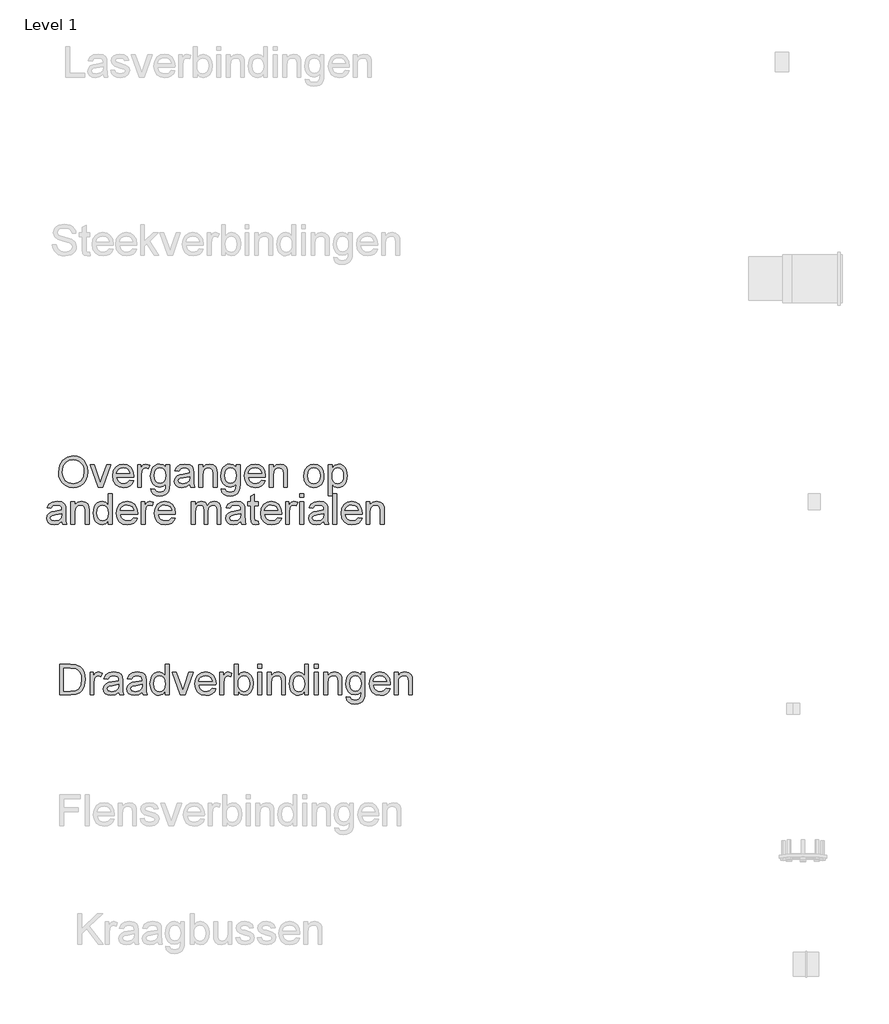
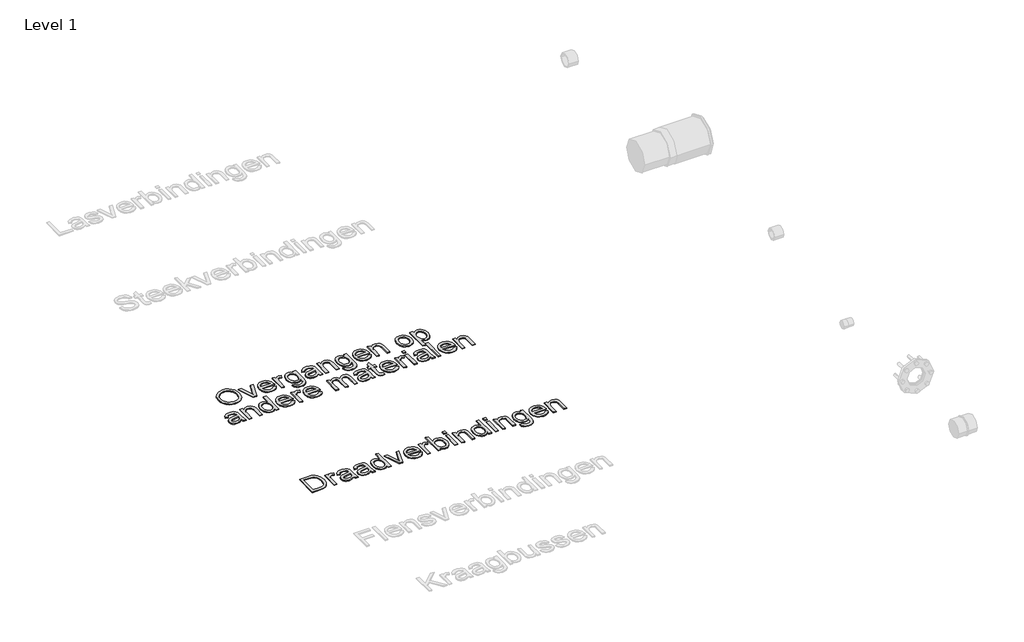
# One storey, part 5 of 9: 2 proxies.
"""IFC4 building model written with IfcOpenShell, lengths in millimetres."""

from ifc_helpers import new_model, si_unit, origin, origin_with_axes, place, context, project, spatial, polyline, outline, extrude, element, save

model = new_model("IFC4")

# Units and contexts
model_context = context("Model", 3, world=origin())
ifc_project = project(units=[si_unit("LENGTHUNIT", "METRE", prefix="MILLI")], contexts=[model_context])

# Site, building, storey
site = spatial("IfcSite", under=ifc_project)
building = spatial("IfcBuilding", under=site)
storey = spatial("IfcBuildingStorey", under=building, Name="Level 1", Elevation=0.0)

# Proxies
placement = place(None, origin())
element("IfcBuildingElementProxy", 1, Name="small", ObjectType="small", at=placement, inside=storey, context=model_context, shape_type="SweptSolid", body=[
    extrude(outline(polyline([(1671.5177928, 13973.1453633), (1676.2046095, 14004.2448809), (1690.2650593, 14027.773387), (1711.7334263, 14042.5806373), (1738.6439942, 14047.5163874), (1757.0908237, 14045.1987308), (1773.6320245, 14038.2457611), (1787.3662857, 14027.1467613), (1797.3922963, 14012.3910145), (1803.5212104, 13994.6909854), (1805.5641817, 13974.7591389), (1803.4139114, 13954.5611911), (1796.9631007, 13936.6122286), (1786.5679817, 13921.83073), (1772.5847871, 13911.1351742), (1756.1852209, 13904.6457358), (1738.5409873, 13902.4825896), (1719.8108886, 13904.8732095), (1703.1752648, 13912.045069), (1689.4753393, 13923.3500827), (1679.5523356, 13938.1401651), (1673.5264285, 13955.1577731), (1671.5177928, 13973.1453633)]), holes=[polyline([(1689.0976471, 13972.973685), (1692.6127596, 13950.9731154), (1703.158097, 13934.2087329), (1719.0082927, 13923.5990162), (1738.4379803, 13920.0624439), (1758.150937, 13923.6333518), (1774.0268845, 13934.3460755), (1784.4949667, 13951.6254928), (1787.9843274, 13974.8964816), (1786.4907265, 13990.4591162), (1782.0099238, 14003.9101082), (1774.6578021, 14014.910393), (1764.5502443, 14023.120906), (1752.3567956, 14028.2326264), (1738.7470012, 14029.9365331), (1719.8366404, 14026.6531863), (1703.7589709, 14016.8031459), (1692.7629781, 13999.2790871), (1689.0976471, 13972.973685)])]), origin_with_axes(), (0.0, 0.0, 1.0), 5.0),
    extrude(outline(polyline([(1852.8787114, 13904.6800714), (1816.5515906, 14007.9617153), (1835.1615145, 14007.9617153), (1857.170668, 13946.0888688), (1863.797449, 13925.2814631), (1870.2868874, 13944.9214566), (1892.4333835, 14007.9617153), (1911.0433074, 14007.9617153), (1875.1625501, 13904.6800714), (1852.8787114, 13904.6800714)])), origin_with_axes(), (0.0, 0.0, 1.0), 5.0),
    extrude(outline(polyline([(1998.7365648, 13935.4448164), (2015.9730626, 13933.2473346), (2009.7626014, 13920.2598739), (1999.8524735, 13910.5514681), (1986.4658609, 13904.4998092), (1969.8259451, 13902.4825896), (1949.1988016, 13905.9633664), (1933.3271461, 13916.4056969), (1923.2067124, 13933.1314518), (1919.8332345, 13955.462502), (1923.241048, 13978.5446447), (1933.4644887, 13995.8068942), (1949.1215464, 14006.5711213), (1968.8302112, 14010.1591971), (1987.9251261, 14006.5797053), (2003.1830319, 13995.8412298), (2013.1875827, 13978.613316), (2016.522433, 13955.565509), (2016.4194261, 13950.8271889), (1937.4130888, 13950.8271889), (1940.456086, 13937.6680499), (1947.5249385, 13927.9939797), (1957.7269194, 13922.0453279), (1970.1693016, 13920.0624439), (1987.4057994, 13923.7363588), (1998.7365648, 13935.4448164)]), holes=[polyline([(1937.4130888, 13968.4070432), (1998.9425787, 13968.4070432), (1991.9037699, 13984.3387861), (1981.6545775, 13990.5192036), (1968.7615399, 13992.5793428), (1956.9114477, 13990.9355234), (1947.1129107, 13986.0040653), (1940.3015756, 13978.317171), (1937.4130888, 13968.4070432)])]), origin_with_axes(), (0.0, 0.0, 1.0), 5.0),
    extrude(outline(polyline([(2034.1022873, 13904.6800714), (2034.1022873, 14007.9617153), (2049.4846598, 14007.9617153), (2049.4846598, 13992.6823498), (2060.4033974, 14006.7599674), (2071.3908063, 14010.1591971), (2089.0393319, 14004.7341639), (2083.1679353, 13988.9740992), (2070.8071002, 13992.5793428), (2060.8669287, 13989.1114419), (2054.5320008, 13979.497459), (2051.6821416, 13958.9647386), (2051.6821416, 13904.6800714), (2034.1022873, 13904.6800714)])), origin_with_axes(), (0.0, 0.0, 1.0), 5.0),
    extrude(outline(polyline([(2095.6317773, 13895.8901443), (2113.2116315, 13893.6926625), (2118.9113499, 13884.4220362), (2135.9761694, 13880.5077718), (2153.9680515, 13884.937071), (2162.5519647, 13897.3665773), (2163.7537126, 13917.8649621), (2151.3757097, 13907.9762941), (2136.2851903, 13904.6800714), (2118.1602575, 13908.5170806), (2104.6448861, 13920.0281083), (2096.2369431, 13936.9040816), (2093.4342955, 13956.8359281), (2098.4644686, 13984.0812687), (2104.6191344, 13995.1416409), (2113.0227854, 14003.3607378), (2123.3878607, 14008.4595823), (2135.4267989, 14010.1591971), (2151.1096084, 14006.3136039), (2163.7537126, 13994.7768246), (2163.7537126, 14007.9617153), (2181.3335669, 14007.9617153), (2181.3335669, 13918.7920247), (2180.131819, 13898.2035089), (2176.5265755, 13884.645218), (2170.3161142, 13875.6535689), (2161.2987134, 13868.7649785), (2149.6718029, 13864.3871828), (2135.6328129, 13862.9279175), (2119.2761662, 13864.9837647), (2106.3960044, 13871.1513064), (2098.133988, 13881.4477103), (2095.6317773, 13895.8901443)]), holes=[polyline([(2111.0141497, 13958.037676), (2112.8897348, 13941.912795), (2118.5164899, 13930.8266711), (2126.9759364, 13924.401612), (2137.3495955, 13922.2599257), (2147.6459994, 13924.3887362), (2156.1483655, 13930.7751676), (2161.8523758, 13941.719657), (2163.7537126, 13957.5226412), (2161.7965804, 13972.7633791), (2155.9251837, 13983.7379122), (2147.2983509, 13990.3689851), (2137.0749103, 13992.5793428), (2127.0360238, 13990.4033208), (2118.6194969, 13983.8752548), (2112.9154865, 13973.0638161), (2111.0141497, 13958.037676)])]), origin_with_axes(), (0.0, 0.0, 1.0), 5.0),
    extrude(outline(polyline([(2273.6278018, 13917.8649621), (2256.5801501, 13905.9504906), (2237.7470445, 13902.4825896), (2223.0556771, 13904.5684805), (2212.2184866, 13910.8261533), (2205.5359102, 13920.3285452), (2203.3083847, 13932.1485937), (2206.6732787, 13946.0545331), (2215.5147093, 13956.1492151), (2227.8240409, 13961.9176048), (2243.0347351, 13964.56145), (2273.5247948, 13970.6045249), (2273.6278018, 13974.5187894), (2272.41747, 13982.3644861), (2268.7864747, 13987.4976662), (2260.6660928, 13991.3089236), (2249.3524952, 13992.5793428), (2231.566627, 13989.197281), (2223.0857208, 13977.1969703), (2205.5058665, 13979.3944521), (2213.1112136, 13996.5622785), (2228.4249148, 14006.6226248), (2251.6186483, 14010.1591971), (2272.9239209, 14007.0346527), (2284.9585673, 13999.188956), (2290.3492648, 13987.2573166), (2291.2076561, 13971.8749441), (2291.2076561, 13950.0031332), (2292.1003831, 13919.46157), (2295.6026196, 13904.6800714), (2278.0227654, 13904.6800714), (2273.6278018, 13917.8649621)]), holes=[polyline([(2273.6278018, 13953.0246707), (2245.2665525, 13947.6339732), (2230.1416974, 13944.784114), (2223.2917347, 13940.1488008), (2220.888239, 13933.3846772), (2226.124426, 13923.8737014), (2241.4896307, 13920.0624439), (2259.2754989, 13924.2685614), (2270.743607, 13934.4490825), (2273.5247948, 13948.046001), (2273.6278018, 13953.0246707)])]), origin_with_axes(), (0.0, 0.0, 1.0), 5.0),
    extrude(outline(polyline([(2315.3799557, 13904.6800714), (2315.3799557, 14007.9617153), (2332.95981, 14007.9617153), (2332.95981, 13993.5407411), (2346.4022181, 14006.0045831), (2364.7546246, 14010.1591971), (2381.3559127, 14006.8114709), (2392.6866782, 13998.0215438), (2397.9572009, 13985.0941705), (2398.8842635, 13968.0980223), (2398.8842635, 13904.6800714), (2381.3044092, 13904.6800714), (2381.3044092, 13965.7288622), (2379.2786057, 13981.282913), (2372.1196221, 13989.5063019), (2360.0506401, 13992.5793428), (2349.7542362, 13990.8539762), (2340.9771849, 13985.6778766), (2334.9641537, 13975.6776177), (2332.95981, 13959.4797734), (2332.95981, 13904.6800714), (2315.3799557, 13904.6800714)])), origin_with_axes(), (0.0, 0.0, 1.0), 5.0),
    extrude(outline(polyline([(2418.6615996, 13895.8901443), (2436.2414539, 13893.6926625), (2441.9411722, 13884.4220362), (2459.0059917, 13880.5077718), (2476.9978738, 13884.937071), (2485.5817871, 13897.3665773), (2486.7835349, 13917.8649621), (2474.405532, 13907.9762941), (2459.3150126, 13904.6800714), (2441.1900798, 13908.5170806), (2427.6747085, 13920.0281083), (2419.2667655, 13936.9040816), (2416.4641178, 13956.8359281), (2421.4942909, 13984.0812687), (2427.6489567, 13995.1416409), (2436.0526078, 14003.3607378), (2446.417683, 14008.4595823), (2458.4566213, 14010.1591971), (2474.1394307, 14006.3136039), (2486.7835349, 13994.7768246), (2486.7835349, 14007.9617153), (2504.3633892, 14007.9617153), (2504.3633892, 13918.7920247), (2503.1616413, 13898.2035089), (2499.5563978, 13884.645218), (2493.3459366, 13875.6535689), (2484.3285357, 13868.7649785), (2472.7016253, 13864.3871828), (2458.6626352, 13862.9279175), (2442.3059885, 13864.9837647), (2429.4258268, 13871.1513064), (2421.1638103, 13881.4477103), (2418.6615996, 13895.8901443)]), holes=[polyline([(2434.0439721, 13958.037676), (2435.9195571, 13941.912795), (2441.5463122, 13930.8266711), (2450.0057587, 13924.401612), (2460.3794178, 13922.2599257), (2470.6758217, 13924.3887362), (2479.1781878, 13930.7751676), (2484.8821981, 13941.719657), (2486.7835349, 13957.5226412), (2484.8264027, 13972.7633791), (2478.955006, 13983.7379122), (2470.3281733, 13990.3689851), (2460.1047326, 13992.5793428), (2450.0658461, 13990.4033208), (2441.6493192, 13983.8752548), (2435.9453089, 13973.0638161), (2434.0439721, 13958.037676)])]), origin_with_axes(), (0.0, 0.0, 1.0), 5.0),
    extrude(outline(polyline([(2603.0440556, 13935.4448164), (2620.2805533, 13933.2473346), (2614.0700921, 13920.2598739), (2604.1599643, 13910.5514681), (2590.7733516, 13904.4998092), (2574.1334358, 13902.4825896), (2553.5062924, 13905.9633664), (2537.6346368, 13916.4056969), (2527.5142031, 13933.1314518), (2524.1407252, 13955.462502), (2527.5485388, 13978.5446447), (2537.7719794, 13995.8068942), (2553.4290371, 14006.5711213), (2573.1377019, 14010.1591971), (2592.2326169, 14006.5797053), (2607.4905226, 13995.8412298), (2617.4950735, 13978.613316), (2620.8299238, 13955.565509), (2620.7269168, 13950.8271889), (2541.7205795, 13950.8271889), (2544.7635768, 13937.6680499), (2551.8324293, 13927.9939797), (2562.0344102, 13922.0453279), (2574.4767924, 13920.0624439), (2591.7132901, 13923.7363588), (2603.0440556, 13935.4448164)]), holes=[polyline([(2541.7205795, 13968.4070432), (2603.2500695, 13968.4070432), (2596.2112606, 13984.3387861), (2585.9620683, 13990.5192036), (2573.0690306, 13992.5793428), (2561.2189384, 13990.9355234), (2551.4204015, 13986.0040653), (2544.6090663, 13978.317171), (2541.7205795, 13968.4070432)])]), origin_with_axes(), (0.0, 0.0, 1.0), 5.0),
    extrude(outline(polyline([(2638.409778, 13904.6800714), (2638.409778, 14007.9617153), (2655.9896323, 14007.9617153), (2655.9896323, 13993.5407411), (2669.4320404, 14006.0045831), (2687.7844469, 14010.1591971), (2704.3857351, 14006.8114709), (2715.7165005, 13998.0215438), (2720.9870232, 13985.0941705), (2721.9140858, 13968.0980223), (2721.9140858, 13904.6800714), (2704.3342316, 13904.6800714), (2704.3342316, 13965.7288622), (2702.3084281, 13981.282913), (2695.1494444, 13989.5063019), (2683.0804624, 13992.5793428), (2672.7840585, 13990.8539762), (2664.0070073, 13985.6778766), (2657.993976, 13975.6776177), (2655.9896323, 13959.4797734), (2655.9896323, 13904.6800714), (2638.409778, 13904.6800714)])), origin_with_axes(), (0.0, 0.0, 1.0), 5.0),
    extrude(outline(polyline([(2796.6284665, 13956.3208933), (2800.4311401, 13981.2228256), (2811.8391607, 13998.7254247), (2825.9339463, 14007.300754), (2842.8099196, 14010.1591971), (2861.2782089, 14006.6784203), (2876.0296638, 13996.2360898), (2885.6994421, 13979.6562614), (2888.9227015, 13957.7629908), (2887.4977719, 13940.0028743), (2883.2229831, 13926.483211), (2876.2228019, 13916.3584853), (2866.6216949, 13908.7831819), (2855.2179662, 13904.0577377), (2842.8099196, 13902.4825896), (2824.1184486, 13905.9504906), (2809.3841616, 13916.3541934), (2799.8173903, 13933.2816703), (2796.6284665, 13956.3208933)]), holes=[polyline([(2814.2083208, 13956.355229), (2816.2427082, 13940.4449458), (2822.3458705, 13929.1098884), (2831.5306577, 13922.324305), (2842.8099196, 13920.0624439), (2854.0376781, 13922.3371809), (2863.2052975, 13929.1613919), (2869.3084598, 13940.6466678), (2871.3428472, 13956.9045994), (2869.2955839, 13972.3513513), (2863.153794, 13983.5318983), (2853.9732988, 13990.3174817), (2842.8099196, 13992.5793428), (2831.5306577, 13990.3260656), (2822.3458705, 13983.5662339), (2816.2427082, 13972.2569282), (2814.2083208, 13956.355229)])]), origin_with_axes(), (0.0, 0.0, 1.0), 5.0),
    extrude(outline(polyline([(2908.7000375, 13865.1253993), (2908.7000375, 14007.9617153), (2926.2798918, 14007.9617153), (2926.2798918, 13990.7252175), (2938.4347129, 14005.3007022), (2954.847155, 14010.1591971), (2966.7358748, 14008.4595823), (2977.1309937, 14003.3607378), (2985.5947322, 13995.1716846), (2991.6893105, 13984.2014435), (2996.5993089, 13957.1106134), (2991.054101, 13928.6291893), (2984.2556417, 13917.4529343), (2974.9506798, 13909.2295454), (2964.1134893, 13904.1693286), (2952.7183445, 13902.4825896), (2937.4218112, 13906.997728), (2926.2798918, 13918.4143326), (2926.2798918, 13865.1253993), (2908.7000375, 13865.1253993)]), holes=[polyline([(2926.2798918, 13955.4968377), (2928.1812286, 13939.736773), (2933.8852389, 13928.7150284), (2942.3017658, 13922.22559), (2952.3406523, 13920.0624439), (2962.5426332, 13922.3028453), (2971.173758, 13929.0240493), (2977.0580305, 13940.4492378), (2979.0194546, 13956.8015925), (2977.105242, 13972.475818), (2971.362604, 13983.652073), (2962.958953, 13990.3475254), (2953.0617011, 13992.5793428), (2943.1258215, 13990.2058908), (2934.4002737, 13983.0855348), (2928.3099873, 13971.4414565), (2926.2798918, 13955.4968377)])]), origin_with_axes(), (0.0, 0.0, 1.0), 5.0),
    extrude(outline(polyline([(1686.9001653, 13747.1002171), (1669.8525137, 13735.1857456), (1651.0194081, 13731.7178446), (1636.3280406, 13733.8037356), (1625.4908502, 13740.0614083), (1618.8082737, 13749.5638002), (1616.5807482, 13761.3838487), (1619.9456422, 13775.2897882), (1628.7870728, 13785.3844701), (1641.0964044, 13791.1528598), (1656.3070986, 13793.7967051), (1686.7971584, 13799.83978), (1686.9001653, 13803.7540444), (1685.6898336, 13811.5997411), (1682.0588383, 13816.7329212), (1673.9384564, 13820.5441787), (1662.6248587, 13821.8145978), (1644.8389906, 13818.432536), (1636.3580843, 13806.4322253), (1618.77823, 13808.6297071), (1626.3835771, 13825.7975335), (1641.6972783, 13835.8578798), (1664.8910118, 13839.3944521), (1686.1962845, 13836.2699077), (1698.2309308, 13828.424211), (1703.6216283, 13816.4925716), (1704.4800196, 13801.1101991), (1704.4800196, 13779.2383882), (1705.3727466, 13748.696825), (1708.8749832, 13733.9153264), (1691.2951289, 13733.9153264), (1686.9001653, 13747.1002171)]), holes=[polyline([(1686.9001653, 13782.2599257), (1658.5389161, 13776.8692282), (1643.414061, 13774.019369), (1636.5640982, 13769.3840559), (1634.1606025, 13762.6199322), (1639.3967896, 13753.1089564), (1654.7619942, 13749.2976989), (1672.5478624, 13753.5038164), (1684.0159705, 13763.6843375), (1686.7971584, 13777.281256), (1686.9001653, 13782.2599257)])]), origin_with_axes(), (0.0, 0.0, 1.0), 5.0),
    extrude(outline(polyline([(1728.6523192, 13733.9153264), (1728.6523192, 13837.1969703), (1746.2321735, 13837.1969703), (1746.2321735, 13822.7759961), (1759.6745816, 13835.2398381), (1778.0269881, 13839.3944521), (1794.6282763, 13836.0467259), (1805.9590417, 13827.2567988), (1811.2295644, 13814.3294255), (1812.1566271, 13797.3332773), (1812.1566271, 13733.9153264), (1794.5767728, 13733.9153264), (1794.5767728, 13794.9641173), (1792.5509693, 13810.518168), (1785.3919856, 13818.7415569), (1773.3230036, 13821.8145978), (1763.0265997, 13820.0892313), (1754.2495485, 13814.9131316), (1748.2365173, 13804.9128727), (1746.2321735, 13788.7150284), (1746.2321735, 13733.9153264), (1728.6523192, 13733.9153264)])), origin_with_axes(), (0.0, 0.0, 1.0), 5.0),
    extrude(outline(polyline([(1900.0558984, 13733.9153264), (1900.0558984, 13750.4994468), (1888.424696, 13736.4132452), (1872.3470266, 13731.7178446), (1860.9819255, 13733.4174595), (1850.5782226, 13738.5163039), (1841.7711277, 13746.6581456), (1835.1958501, 13757.4867521), (1829.7364813, 13785.4531414), (1834.7666545, 13813.4366985), (1841.050079, 13824.5356983), (1849.8400061, 13832.6989998), (1860.4711826, 13837.720589), (1872.2783553, 13839.3944521), (1888.4847834, 13834.6046285), (1900.0558984, 13822.1579543), (1900.0558984, 13874.5541606), (1917.6357527, 13874.5541606), (1917.6357527, 13733.9153264), (1900.0558984, 13733.9153264)]), holes=[polyline([(1847.3163356, 13785.5218127), (1849.2992196, 13769.6201135), (1855.2478714, 13758.3108078), (1863.891872, 13751.5509761), (1873.9608022, 13749.2976989), (1884.0254405, 13751.4479692), (1892.4505513, 13757.89878), (1898.1545617, 13768.7703061), (1900.0558984, 13784.1827223), (1898.120226, 13801.0329439), (1892.3132087, 13812.7156498), (1883.6735001, 13819.5398608), (1873.2397535, 13821.8145978), (1863.0678164, 13819.6299919), (1854.7328366, 13813.0761742), (1849.1704609, 13801.818372), (1847.3163356, 13785.5218127)])]), origin_with_axes(), (0.0, 0.0, 1.0), 5.0),
    extrude(outline(polyline([(2016.3164191, 13764.6800714), (2033.5529168, 13762.4825896), (2027.3424556, 13749.4951289), (2017.4323278, 13739.7867231), (2004.0457151, 13733.7350643), (1987.4057994, 13731.7178446), (1966.7786559, 13735.1986215), (1950.9070004, 13745.6409519), (1940.7865667, 13762.3667068), (1937.4130888, 13784.697757), (1940.8209023, 13807.7798997), (1951.044343, 13825.0421492), (1966.7014007, 13835.8063764), (1986.4100654, 13839.3944521), (2005.5049804, 13835.8149603), (2020.7628861, 13825.0764848), (2030.767437, 13807.848571), (2034.1022873, 13784.800764), (2033.9992803, 13780.0624439), (1954.992943, 13780.0624439), (1958.0359403, 13766.9033049), (1965.1047928, 13757.2292347), (1975.3067737, 13751.2805829), (1987.7491559, 13749.2976989), (2004.9856536, 13752.9716138), (2016.3164191, 13764.6800714)]), holes=[polyline([(1954.992943, 13797.6422982), (2016.522433, 13797.6422982), (2009.4836242, 13813.5740411), (1999.2344318, 13819.7544586), (1986.3413941, 13821.8145978), (1974.4913019, 13820.1707784), (1964.692765, 13815.2393203), (1957.8814298, 13807.552426), (1954.992943, 13797.6422982)])]), origin_with_axes(), (0.0, 0.0, 1.0), 5.0),
    extrude(outline(polyline([(2051.6821416, 13733.9153264), (2051.6821416, 13837.1969703), (2067.0645141, 13837.1969703), (2067.0645141, 13821.9176048), (2077.9832517, 13835.9952225), (2088.9706606, 13839.3944521), (2106.6191862, 13833.9694189), (2100.7477895, 13818.2093543), (2088.3869545, 13821.8145978), (2078.446783, 13818.3466969), (2072.111855, 13808.7327141), (2069.2619958, 13788.1999936), (2069.2619958, 13733.9153264), (2051.6821416, 13733.9153264)])), origin_with_axes(), (0.0, 0.0, 1.0), 5.0),
    extrude(outline(polyline([(2189.9174801, 13764.6800714), (2207.1539778, 13762.4825896), (2200.9435166, 13749.4951289), (2191.0333888, 13739.7867231), (2177.6467761, 13733.7350643), (2161.0068603, 13731.7178446), (2140.3797169, 13735.1986215), (2124.5080613, 13745.6409519), (2114.3876276, 13762.3667068), (2111.0141497, 13784.697757), (2114.4219633, 13807.7798997), (2124.6454039, 13825.0421492), (2140.3024617, 13835.8063764), (2160.0111264, 13839.3944521), (2179.1060414, 13835.8149603), (2194.3639471, 13825.0764848), (2204.368498, 13807.848571), (2207.7033483, 13784.800764), (2207.6003413, 13780.0624439), (2128.594004, 13780.0624439), (2131.6370013, 13766.9033049), (2138.7058538, 13757.2292347), (2148.9078347, 13751.2805829), (2161.3502169, 13749.2976989), (2178.5867146, 13752.9716138), (2189.9174801, 13764.6800714)]), holes=[polyline([(2128.594004, 13797.6422982), (2190.123494, 13797.6422982), (2183.0846852, 13813.5740411), (2172.8354928, 13819.7544586), (2159.9424551, 13821.8145978), (2148.0923629, 13820.1707784), (2138.293826, 13815.2393203), (2131.4824908, 13807.552426), (2128.594004, 13797.6422982)])]), origin_with_axes(), (0.0, 0.0, 1.0), 5.0),
    extrude(outline(polyline([(2280.2202472, 13733.9153264), (2280.2202472, 13837.1969703), (2297.8001014, 13837.1969703), (2297.8001014, 13820.2008221), (2309.8862512, 13834.1239294), (2327.0884133, 13839.3944521), (2344.7026033, 13834.0209224), (2354.3852574, 13818.9647386), (2368.1023507, 13834.2870237), (2385.4246876, 13839.3944521), (2398.639622, 13837.2699336), (2408.4124072, 13830.896378), (2414.4511901, 13820.1021071), (2416.4641178, 13804.7154427), (2416.4641178, 13733.9153264), (2398.8842635, 13733.9153264), (2398.8842635, 13797.161599), (2397.25332, 13811.8400906), (2391.3475877, 13819.0677456), (2381.3044092, 13821.8145978), (2371.7805575, 13820.0548956), (2364.016408, 13814.775789), (2358.8531842, 13805.6167536), (2357.1321096, 13792.217265), (2357.1321096, 13733.9153264), (2339.5522553, 13733.9153264), (2339.5522553, 13799.1187313), (2335.4834805, 13816.1492151), (2330.1142428, 13820.3982521), (2322.1440793, 13821.8145978), (2309.1308669, 13818.037676), (2300.4782824, 13806.9815958), (2297.8001014, 13786.0025119), (2297.8001014, 13733.9153264), (2280.2202472, 13733.9153264)])), origin_with_axes(), (0.0, 0.0, 1.0), 5.0),
    extrude(outline(polyline([(2508.7583527, 13747.1002171), (2491.7107011, 13735.1857456), (2472.8775955, 13731.7178446), (2458.186228, 13733.8037356), (2447.3490376, 13740.0614083), (2440.6664611, 13749.5638002), (2438.4389356, 13761.3838487), (2441.8038296, 13775.2897882), (2450.6452602, 13785.3844701), (2462.9545918, 13791.1528598), (2478.165286, 13793.7967051), (2508.6553458, 13799.83978), (2508.7583527, 13803.7540444), (2507.548021, 13811.5997411), (2503.9170257, 13816.7329212), (2495.7966438, 13820.5441787), (2484.4830462, 13821.8145978), (2466.697178, 13818.432536), (2458.2162717, 13806.4322253), (2440.6364174, 13808.6297071), (2448.2417645, 13825.7975335), (2463.5554657, 13835.8578798), (2486.7491993, 13839.3944521), (2508.0544719, 13836.2699077), (2520.0891182, 13828.424211), (2525.4798157, 13816.4925716), (2526.338207, 13801.1101991), (2526.338207, 13779.2383882), (2527.230934, 13748.696825), (2530.7331706, 13733.9153264), (2513.1533163, 13733.9153264), (2508.7583527, 13747.1002171)]), holes=[polyline([(2508.7583527, 13782.2599257), (2480.3971035, 13776.8692282), (2465.2722484, 13774.019369), (2458.4222856, 13769.3840559), (2456.0187899, 13762.6199322), (2461.254977, 13753.1089564), (2476.6201816, 13749.2976989), (2494.4060498, 13753.5038164), (2505.8741579, 13763.6843375), (2508.6553458, 13777.281256), (2508.7583527, 13782.2599257)])]), origin_with_axes(), (0.0, 0.0, 1.0), 5.0),
    extrude(outline(polyline([(2587.867697, 13748.5766502), (2590.0651788, 13733.4002916), (2576.9146237, 13731.7178446), (2562.1846286, 13734.6363751), (2554.8367989, 13742.2932257), (2552.7079884, 13762.2422401), (2552.7079884, 13819.617116), (2539.5230977, 13819.617116), (2539.5230977, 13837.1969703), (2552.7079884, 13837.1969703), (2552.7079884, 13862.2963326), (2570.2878427, 13872.6313641), (2570.2878427, 13837.1969703), (2587.867697, 13837.1969703), (2587.867697, 13819.617116), (2570.2878427, 13819.617116), (2570.2878427, 13762.7572749), (2571.2149053, 13753.6926625), (2574.219275, 13750.4822789), (2580.2108464, 13749.2976989), (2587.867697, 13748.5766502)])), origin_with_axes(), (0.0, 0.0, 1.0), 5.0),
    extrude(outline(polyline([(2677.7584362, 13764.6800714), (2694.994934, 13762.4825896), (2688.7844728, 13749.4951289), (2678.874345, 13739.7867231), (2665.4877323, 13733.7350643), (2648.8478165, 13731.7178446), (2628.220673, 13735.1986215), (2612.3490175, 13745.6409519), (2602.2285838, 13762.3667068), (2598.8551059, 13784.697757), (2602.2629195, 13807.7798997), (2612.4863601, 13825.0421492), (2628.1434178, 13835.8063764), (2647.8520826, 13839.3944521), (2666.9469975, 13835.8149603), (2682.2049033, 13825.0764848), (2692.2094541, 13807.848571), (2695.5443044, 13784.800764), (2695.4412975, 13780.0624439), (2616.4349602, 13780.0624439), (2619.4779574, 13766.9033049), (2626.54681, 13757.2292347), (2636.7487908, 13751.2805829), (2649.191173, 13749.2976989), (2666.4276708, 13752.9716138), (2677.7584362, 13764.6800714)]), holes=[polyline([(2616.4349602, 13797.6422982), (2677.9644502, 13797.6422982), (2670.9256413, 13813.5740411), (2660.6764489, 13819.7544586), (2647.7834113, 13821.8145978), (2635.9333191, 13820.1707784), (2626.1347821, 13815.2393203), (2619.323447, 13807.552426), (2616.4349602, 13797.6422982)])]), origin_with_axes(), (0.0, 0.0, 1.0), 5.0),
    extrude(outline(polyline([(2713.1241587, 13733.9153264), (2713.1241587, 13837.1969703), (2728.5065312, 13837.1969703), (2728.5065312, 13821.9176048), (2739.4252688, 13835.9952225), (2750.4126777, 13839.3944521), (2768.0612033, 13833.9694189), (2762.1898067, 13818.2093543), (2749.8289716, 13821.8145978), (2739.8888001, 13818.3466969), (2733.5538722, 13808.7327141), (2730.704013, 13788.1999936), (2730.704013, 13733.9153264), (2713.1241587, 13733.9153264)])), origin_with_axes(), (0.0, 0.0, 1.0), 5.0),
    extrude(outline(polyline([(2779.0486122, 13856.9743064), (2779.0486122, 13874.5541606), (2796.6284665, 13874.5541606), (2796.6284665, 13856.9743064), (2779.0486122, 13856.9743064)])), origin_with_axes(), (0.0, 0.0, 1.0), 5.0),
    extrude(outline(polyline([(2779.0486122, 13733.9153264), (2779.0486122, 13837.1969703), (2796.6284665, 13837.1969703), (2796.6284665, 13733.9153264), (2779.0486122, 13733.9153264)])), origin_with_axes(), (0.0, 0.0, 1.0), 5.0),
    extrude(outline(polyline([(2888.9227015, 13747.1002171), (2871.8750498, 13735.1857456), (2853.0419442, 13731.7178446), (2838.3505767, 13733.8037356), (2827.5133863, 13740.0614083), (2820.8308098, 13749.5638002), (2818.6032844, 13761.3838487), (2821.9681783, 13775.2897882), (2830.809609, 13785.3844701), (2843.1189405, 13791.1528598), (2858.3296348, 13793.7967051), (2888.8196945, 13799.83978), (2888.9227015, 13803.7540444), (2887.7123697, 13811.5997411), (2884.0813744, 13816.7329212), (2875.9609925, 13820.5441787), (2864.6473949, 13821.8145978), (2846.8615267, 13818.432536), (2838.3806204, 13806.4322253), (2820.8007662, 13808.6297071), (2828.4061133, 13825.7975335), (2843.7198144, 13835.8578798), (2866.913548, 13839.3944521), (2888.2188206, 13836.2699077), (2900.2534669, 13828.424211), (2905.6441644, 13816.4925716), (2906.5025557, 13801.1101991), (2906.5025557, 13779.2383882), (2907.3952827, 13748.696825), (2910.8975193, 13733.9153264), (2893.317665, 13733.9153264), (2888.9227015, 13747.1002171)]), holes=[polyline([(2888.9227015, 13782.2599257), (2860.5614522, 13776.8692282), (2845.4365971, 13774.019369), (2838.5866343, 13769.3840559), (2836.1831386, 13762.6199322), (2841.4193257, 13753.1089564), (2856.7845304, 13749.2976989), (2874.5703986, 13753.5038164), (2886.0385066, 13763.6843375), (2888.8196945, 13777.281256), (2888.9227015, 13782.2599257)])]), origin_with_axes(), (0.0, 0.0, 1.0), 5.0),
    extrude(outline(polyline([(2930.6748554, 13733.9153264), (2930.6748554, 13874.5541606), (2948.2547097, 13874.5541606), (2948.2547097, 13733.9153264), (2930.6748554, 13733.9153264)])), origin_with_axes(), (0.0, 0.0, 1.0), 5.0),
    extrude(outline(polyline([(3046.935376, 13764.6800714), (3064.1718738, 13762.4825896), (3057.9614126, 13749.4951289), (3048.0512848, 13739.7867231), (3034.6646721, 13733.7350643), (3018.0247563, 13731.7178446), (2997.3976128, 13735.1986215), (2981.5259573, 13745.6409519), (2971.4055236, 13762.3667068), (2968.0320457, 13784.697757), (2971.4398593, 13807.7798997), (2981.6632999, 13825.0421492), (2997.3203576, 13835.8063764), (3017.0290224, 13839.3944521), (3036.1239373, 13835.8149603), (3051.3818431, 13825.0764848), (3061.3863939, 13807.848571), (3064.7212442, 13784.800764), (3064.6182373, 13780.0624439), (2985.6119, 13780.0624439), (2988.6548972, 13766.9033049), (2995.7237498, 13757.2292347), (3005.9257306, 13751.2805829), (3018.3681128, 13749.2976989), (3035.6046106, 13752.9716138), (3046.935376, 13764.6800714)]), holes=[polyline([(2985.6119, 13797.6422982), (3047.14139, 13797.6422982), (3040.1025811, 13813.5740411), (3029.8533887, 13819.7544586), (3016.9603511, 13821.8145978), (3005.1102589, 13820.1707784), (2995.3117219, 13815.2393203), (2988.5003868, 13807.552426), (2985.6119, 13797.6422982)])]), origin_with_axes(), (0.0, 0.0, 1.0), 5.0),
    extrude(outline(polyline([(3082.3010985, 13733.9153264), (3082.3010985, 13837.1969703), (3099.8809528, 13837.1969703), (3099.8809528, 13822.7759961), (3113.3233609, 13835.2398381), (3131.6757674, 13839.3944521), (3148.2770555, 13836.0467259), (3159.607821, 13827.2567988), (3164.8783437, 13814.3294255), (3165.8054063, 13797.3332773), (3165.8054063, 13733.9153264), (3148.225552, 13733.9153264), (3148.225552, 13794.9641173), (3146.1997485, 13810.518168), (3139.0407649, 13818.7415569), (3126.9717829, 13821.8145978), (3116.675379, 13820.0892313), (3107.8983277, 13814.9131316), (3101.8852965, 13804.9128727), (3099.8809528, 13788.7150284), (3099.8809528, 13733.9153264), (3082.3010985, 13733.9153264)])), origin_with_axes(), (0.0, 0.0, 1.0), 5.0),
])
element("IfcBuildingElementProxy", 2, Name="small", ObjectType="small", at=placement, inside=storey, context=model_context, shape_type="SweptSolid", body=[
    extrude(outline(polyline([(1677.6802707, 12950.8062221), (1677.6802707, 13091.4450563), (1726.1965482, 13091.4450563), (1751.2959105, 13089.4192528), (1771.9659735, 13079.3589065), (1781.6915472, 13068.6461828), (1788.6187652, 13055.3239495), (1794.1468053, 13021.8810236), (1790.4042191, 12993.5026065), (1780.7902363, 12973.0213895), (1767.9487021, 12960.2656945), (1751.1414, 12953.2097178), (1728.5313726, 12950.8062221), (1677.6802707, 12950.8062221)]), holes=[polyline([(1695.260125, 12968.3860764), (1726.3682265, 12968.3860764), (1748.9954217, 12970.9269147), (1762.0429698, 12978.1030661), (1772.7385257, 12995.5627456), (1776.566951, 13022.1557088), (1774.691366, 13041.3150031), (1769.0646108, 13055.4612921), (1760.7510909, 13065.1782818), (1750.8152113, 13071.0496785), (1725.8875273, 13073.865202), (1695.260125, 13073.865202), (1695.260125, 12968.3860764)])]), origin_with_axes(), (0.0, 0.0, 1.0), 5.0),
    extrude(outline(polyline([(1816.1216231, 12950.8062221), (1816.1216231, 13054.087866), (1831.5039956, 13054.087866), (1831.5039956, 13038.8085004), (1842.4227332, 13052.8861181), (1853.4101421, 13056.2853477), (1871.0586677, 13050.8603146), (1865.1872711, 13035.1002499), (1852.826436, 13038.7054935), (1842.8862645, 13035.2375925), (1836.5513366, 13025.6236097), (1833.7014774, 13005.0908893), (1833.7014774, 12950.8062221), (1816.1216231, 12950.8062221)])), origin_with_axes(), (0.0, 0.0, 1.0), 5.0),
    extrude(outline(polyline([(1947.9705302, 12963.9911128), (1930.9228785, 12952.0766412), (1912.0897729, 12948.6087403), (1897.3984054, 12950.6946312), (1886.561215, 12956.952304), (1879.8786386, 12966.4546959), (1877.6511131, 12978.2747444), (1881.0160071, 12992.1806838), (1889.8574377, 13002.2753658), (1902.1667692, 13008.0437554), (1917.3774635, 13010.6876007), (1947.8675232, 13016.7306756), (1947.9705302, 13020.6449401), (1946.7601984, 13028.4906367), (1943.1292031, 13033.6238168), (1935.0088212, 13037.4350743), (1923.6952236, 13038.7054935), (1905.9093554, 13035.3234317), (1897.4284491, 13023.323121), (1879.8485949, 13025.5206028), (1887.453942, 13042.6884292), (1902.7676432, 13052.7487755), (1925.9613767, 13056.2853477), (1947.2666493, 13053.1608033), (1959.3012956, 13045.3151067), (1964.6919931, 13033.3834673), (1965.5503845, 13018.0010948), (1965.5503845, 12996.1292839), (1966.4431114, 12965.5877207), (1969.945348, 12950.8062221), (1952.3654938, 12950.8062221), (1947.9705302, 12963.9911128)]), holes=[polyline([(1947.9705302, 12999.1508214), (1919.6092809, 12993.7601238), (1904.4844258, 12990.9102647), (1897.6344631, 12986.2749515), (1895.2309674, 12979.5108279), (1900.4671544, 12969.9998521), (1915.8323591, 12966.1885946), (1933.6182273, 12970.3947121), (1945.0863353, 12980.5752331), (1947.8675232, 12994.1721517), (1947.9705302, 12999.1508214)])]), origin_with_axes(), (0.0, 0.0, 1.0), 5.0),
    extrude(outline(polyline([(2055.6471376, 12963.9911128), (2038.599486, 12952.0766412), (2019.7663804, 12948.6087403), (2005.0750129, 12950.6946312), (1994.2378224, 12956.952304), (1987.555246, 12966.4546959), (1985.3277205, 12978.2747444), (1988.6926145, 12992.1806838), (1997.5340451, 13002.2753658), (2009.8433767, 13008.0437554), (2025.0540709, 13010.6876007), (2055.5441307, 13016.7306756), (2055.6471376, 13020.6449401), (2054.4368059, 13028.4906367), (2050.8058106, 13033.6238168), (2042.6854287, 13037.4350743), (2031.371831, 13038.7054935), (2013.5859628, 13035.3234317), (2005.1050566, 13023.323121), (1987.5252023, 13025.5206028), (1995.1305494, 13042.6884292), (2010.4442506, 13052.7487755), (2033.6379841, 13056.2853477), (2054.9432567, 13053.1608033), (2066.9779031, 13045.3151067), (2072.3686006, 13033.3834673), (2073.2269919, 13018.0010948), (2073.2269919, 12996.1292839), (2074.1197189, 12965.5877207), (2077.6219555, 12950.8062221), (2060.0421012, 12950.8062221), (2055.6471376, 12963.9911128)]), holes=[polyline([(2055.6471376, 12999.1508214), (2027.2858883, 12993.7601238), (2012.1610333, 12990.9102647), (2005.3110705, 12986.2749515), (2002.9075748, 12979.5108279), (2008.1437619, 12969.9998521), (2023.5089665, 12966.1885946), (2041.2948347, 12970.3947121), (2052.7629428, 12980.5752331), (2055.5441307, 12994.1721517), (2055.6471376, 12999.1508214)])]), origin_with_axes(), (0.0, 0.0, 1.0), 5.0),
    extrude(outline(polyline([(2161.1262633, 12950.8062221), (2161.1262633, 12967.3903424), (2149.4950609, 12953.3041408), (2133.4173914, 12948.6087403), (2122.0522903, 12950.3083551), (2111.6485875, 12955.4071996), (2102.8414925, 12963.5490413), (2096.266215, 12974.3776478), (2090.8068462, 13002.3440371), (2095.8370193, 13030.3275942), (2102.1204438, 13041.426594), (2110.9103709, 13049.5898954), (2121.5415475, 13054.6114847), (2133.3487201, 13056.2853477), (2149.5551483, 13051.4955242), (2161.1262633, 13039.04885), (2161.1262633, 13091.4450563), (2178.7061176, 13091.4450563), (2178.7061176, 12950.8062221), (2161.1262633, 12950.8062221)]), holes=[polyline([(2108.3867005, 13002.4127084), (2110.3695844, 12986.5110091), (2116.3182363, 12975.2017035), (2124.9622369, 12968.4418718), (2135.0311671, 12966.1885946), (2145.0958053, 12968.3388648), (2153.5209162, 12974.7896756), (2159.2249265, 12985.6612017), (2161.1262633, 13001.0736179), (2159.1905909, 13017.9238396), (2153.3835736, 13029.6065455), (2144.7438649, 13036.4307565), (2134.3101184, 13038.7054935), (2124.1381812, 13036.5208876), (2115.8032015, 13029.9670698), (2110.2408257, 13018.7092676), (2108.3867005, 13002.4127084)])]), origin_with_axes(), (0.0, 0.0, 1.0), 5.0),
    extrude(outline(polyline([(2230.4156108, 12950.8062221), (2194.0884901, 13054.087866), (2212.6984139, 13054.087866), (2234.7075674, 12992.2150195), (2241.3343484, 12971.4076138), (2247.8237868, 12991.0476073), (2269.9702829, 13054.087866), (2288.5802068, 13054.087866), (2252.6994495, 12950.8062221), (2230.4156108, 12950.8062221)])), origin_with_axes(), (0.0, 0.0, 1.0), 5.0),
    extrude(outline(polyline([(2376.2734643, 12981.5709671), (2393.509962, 12979.3734853), (2387.2995008, 12966.3860246), (2377.389373, 12956.6776187), (2364.0027603, 12950.6259599), (2347.3628445, 12948.6087403), (2326.7357011, 12952.0895171), (2310.8640455, 12962.5318476), (2300.7436118, 12979.2576025), (2297.3701339, 13001.5886527), (2300.7779475, 13024.6707954), (2311.0013881, 13041.9330448), (2326.6584458, 13052.697272), (2346.3671106, 13056.2853477), (2365.4620255, 13052.7058559), (2380.7199313, 13041.9673805), (2390.7244822, 13024.7394667), (2394.0593324, 13001.6916597), (2393.9563255, 12996.9533396), (2314.9499882, 12996.9533396), (2317.9929854, 12983.7942006), (2325.061838, 12974.1201304), (2335.2638188, 12968.1714785), (2347.7062011, 12966.1885946), (2364.9426988, 12969.8625094), (2376.2734643, 12981.5709671)]), holes=[polyline([(2314.9499882, 13014.5331938), (2376.4794782, 13014.5331938), (2369.4406693, 13030.4649368), (2359.1914769, 13036.6453543), (2346.2984393, 13038.7054935), (2334.4483471, 13037.0616741), (2324.6498101, 13032.1302159), (2317.838475, 13024.4433217), (2314.9499882, 13014.5331938)])]), origin_with_axes(), (0.0, 0.0, 1.0), 5.0),
    extrude(outline(polyline([(2411.6391867, 12950.8062221), (2411.6391867, 13054.087866), (2427.0215592, 13054.087866), (2427.0215592, 13038.8085004), (2437.9402968, 13052.8861181), (2448.9277058, 13056.2853477), (2466.5762313, 13050.8603146), (2460.7048347, 13035.1002499), (2448.3439997, 13038.7054935), (2438.4038281, 13035.2375925), (2432.0689002, 13025.6236097), (2429.219041, 13005.0908893), (2429.219041, 12950.8062221), (2411.6391867, 12950.8062221)])), origin_with_axes(), (0.0, 0.0, 1.0), 5.0),
    extrude(outline(polyline([(2495.1434945, 12950.8062221), (2477.5636403, 12950.8062221), (2477.5636403, 13091.4450563), (2495.1434945, 13091.4450563), (2495.1434945, 13039.2891996), (2507.4528261, 13052.0363107), (2522.7493595, 13056.2853477), (2540.3635494, 13052.4569225), (2554.0291392, 13041.6926953), (2562.4242064, 13024.9540645), (2565.4629116, 13003.9921484), (2562.3169074, 12980.5237297), (2552.8788949, 12963.0640502), (2539.0287509, 12952.2225678), (2522.6463525, 12948.6087403), (2507.0150465, 12953.2698052), (2495.1434945, 12967.2529998), (2495.1434945, 12950.8062221)]), holes=[polyline([(2495.1434945, 13003.1680927), (2496.3452424, 12988.506769), (2499.9504859, 12978.5837653), (2509.1610248, 12969.2873873), (2521.1355838, 12966.1885946), (2531.2817692, 12968.4719155), (2539.9515215, 12975.3218783), (2545.9001734, 12986.6955633), (2547.8830574, 13002.550051), (2545.9817206, 13018.6363044), (2540.2777102, 13029.8812307), (2531.8783512, 13036.4994278), (2521.8909681, 13038.7054935), (2511.7447827, 13036.4221726), (2503.0750303, 13029.5722098), (2497.1263785, 13018.4045387), (2495.1434945, 13003.1680927)])]), origin_with_axes(), (0.0, 0.0, 1.0), 5.0),
    extrude(outline(polyline([(2585.2402477, 13073.865202), (2585.2402477, 13091.4450563), (2602.820102, 13091.4450563), (2602.820102, 13073.865202), (2585.2402477, 13073.865202)])), origin_with_axes(), (0.0, 0.0, 1.0), 5.0),
    extrude(outline(polyline([(2585.2402477, 12950.8062221), (2585.2402477, 13054.087866), (2602.820102, 13054.087866), (2602.820102, 12950.8062221), (2585.2402477, 12950.8062221)])), origin_with_axes(), (0.0, 0.0, 1.0), 5.0),
    extrude(outline(polyline([(2629.1898834, 12950.8062221), (2629.1898834, 13054.087866), (2646.7697377, 13054.087866), (2646.7697377, 13039.6668918), (2660.2121458, 13052.1307338), (2678.5645522, 13056.2853477), (2695.1658404, 13052.9376216), (2706.4966059, 13044.1476945), (2711.7671286, 13031.2203211), (2712.6941912, 13014.224173), (2712.6941912, 12950.8062221), (2695.1143369, 12950.8062221), (2695.1143369, 13011.8550129), (2693.0885334, 13027.4090637), (2685.9295498, 13035.6324525), (2673.8605678, 13038.7054935), (2663.5641639, 13036.9801269), (2654.7871126, 13031.8040272), (2648.7740814, 13021.8037683), (2646.7697377, 13005.6059241), (2646.7697377, 12950.8062221), (2629.1898834, 12950.8062221)])), origin_with_axes(), (0.0, 0.0, 1.0), 5.0),
    extrude(outline(polyline([(2800.5934626, 12950.8062221), (2800.5934626, 12967.3903424), (2788.9622602, 12953.3041408), (2772.8845907, 12948.6087403), (2761.5194896, 12950.3083551), (2751.1157868, 12955.4071996), (2742.3086918, 12963.5490413), (2735.7334143, 12974.3776478), (2730.2740455, 13002.3440371), (2735.3042186, 13030.3275942), (2741.5876431, 13041.426594), (2750.3775702, 13049.5898954), (2761.0087468, 13054.6114847), (2772.8159194, 13056.2853477), (2789.0223476, 13051.4955242), (2800.5934626, 13039.04885), (2800.5934626, 13091.4450563), (2818.1733169, 13091.4450563), (2818.1733169, 12950.8062221), (2800.5934626, 12950.8062221)]), holes=[polyline([(2747.8538998, 13002.4127084), (2749.8367837, 12986.5110091), (2755.7854356, 12975.2017035), (2764.4294362, 12968.4418718), (2774.4983664, 12966.1885946), (2784.5630046, 12968.3388648), (2792.9881155, 12974.7896756), (2798.6921258, 12985.6612017), (2800.5934626, 13001.0736179), (2798.6577901, 13017.9238396), (2792.8507729, 13029.6065455), (2784.2110642, 13036.4307565), (2773.7773177, 13038.7054935), (2763.6053805, 13036.5208876), (2755.2704008, 13029.9670698), (2749.708025, 13018.7092676), (2747.8538998, 13002.4127084)])]), origin_with_axes(), (0.0, 0.0, 1.0), 5.0),
    extrude(outline(polyline([(2844.5430983, 12950.8062221), (2844.5430983, 13054.087866), (2862.1229525, 13054.087866), (2862.1229525, 12950.8062221), (2844.5430983, 12950.8062221)])), origin_with_axes(), (0.0, 0.0, 1.0), 5.0),
    extrude(outline(polyline([(2844.5430983, 13073.865202), (2844.5430983, 13091.4450563), (2862.1229525, 13091.4450563), (2862.1229525, 13073.865202), (2844.5430983, 13073.865202)])), origin_with_axes(), (0.0, 0.0, 1.0), 5.0),
    extrude(outline(polyline([(2888.492734, 12950.8062221), (2888.492734, 13054.087866), (2906.0725882, 13054.087866), (2906.0725882, 13039.6668918), (2919.5149963, 13052.1307338), (2937.8674028, 13056.2853477), (2954.468691, 13052.9376216), (2965.7994564, 13044.1476945), (2971.0699791, 13031.2203211), (2971.9970418, 13014.224173), (2971.9970418, 12950.8062221), (2954.4171875, 12950.8062221), (2954.4171875, 13011.8550129), (2952.391384, 13027.4090637), (2945.2324004, 13035.6324525), (2933.1634184, 13038.7054935), (2922.8670145, 13036.9801269), (2914.0899632, 13031.8040272), (2908.076932, 13021.8037683), (2906.0725882, 13005.6059241), (2906.0725882, 12950.8062221), (2888.492734, 12950.8062221)])), origin_with_axes(), (0.0, 0.0, 1.0), 5.0),
    extrude(outline(polyline([(2991.7743778, 12942.016295), (3009.3542321, 12939.8188132), (3015.0539505, 12930.5481869), (3032.11877, 12926.6339225), (3050.1106521, 12931.0632217), (3058.6945653, 12943.492728), (3059.8963132, 12963.9911128), (3047.5183103, 12954.1024448), (3032.4277908, 12950.8062221), (3014.3028581, 12954.6432313), (3000.7874867, 12966.1542589), (2992.3795437, 12983.0302323), (2989.576896, 13002.9620788), (2994.6070692, 13030.2074194), (3000.761735, 13041.2677916), (3009.165386, 13049.4868885), (3019.5304612, 13054.5857329), (3031.5693995, 13056.2853477), (3047.252209, 13052.4397546), (3059.8963132, 13040.9029753), (3059.8963132, 13054.087866), (3077.4761674, 13054.087866), (3077.4761674, 12964.9181754), (3076.2744196, 12944.3296596), (3072.669176, 12930.7713686), (3066.4587148, 12921.7797195), (3057.441314, 12914.8911292), (3045.8144035, 12910.5133334), (3031.7754134, 12909.0540682), (3015.4187668, 12911.1099154), (3002.538605, 12917.2774571), (2994.2765885, 12927.573861), (2991.7743778, 12942.016295)]), holes=[polyline([(3007.1567503, 13004.1638267), (3009.0323354, 12988.0389457), (3014.6590905, 12976.9528218), (3023.118537, 12970.5277627), (3033.4921961, 12968.3860764), (3043.7886, 12970.5148868), (3052.290966, 12976.9013183), (3057.9949764, 12987.8458076), (3059.8963132, 13003.6487919), (3057.9391809, 13018.8895298), (3052.0677843, 13029.8640629), (3043.4409515, 13036.4951358), (3033.2175109, 13038.7054935), (3023.1786244, 13036.5294715), (3014.7620974, 13030.0014055), (3009.0580871, 13019.1899668), (3007.1567503, 13004.1638267)])]), origin_with_axes(), (0.0, 0.0, 1.0), 5.0),
    extrude(outline(polyline([(3176.1568338, 12981.5709671), (3193.3933316, 12979.3734853), (3187.1828703, 12966.3860246), (3177.2727425, 12956.6776187), (3163.8861299, 12950.6259599), (3147.2462141, 12948.6087403), (3126.6190706, 12952.0895171), (3110.7474151, 12962.5318476), (3100.6269814, 12979.2576025), (3097.2535035, 13001.5886527), (3100.661317, 13024.6707954), (3110.8847577, 13041.9330448), (3126.5418154, 13052.697272), (3146.2504802, 13056.2853477), (3165.3453951, 13052.7058559), (3180.6033009, 13041.9673805), (3190.6078517, 13024.7394667), (3193.942702, 13001.6916597), (3193.8396951, 12996.9533396), (3114.8333578, 12996.9533396), (3117.876355, 12983.7942006), (3124.9452075, 12974.1201304), (3135.1471884, 12968.1714785), (3147.5895706, 12966.1885946), (3164.8260684, 12969.8625094), (3176.1568338, 12981.5709671)]), holes=[polyline([(3114.8333578, 13014.5331938), (3176.3628477, 13014.5331938), (3169.3240389, 13030.4649368), (3159.0748465, 13036.6453543), (3146.1818088, 13038.7054935), (3134.3317166, 13037.0616741), (3124.5331797, 13032.1302159), (3117.7218446, 13024.4433217), (3114.8333578, 13014.5331938)])]), origin_with_axes(), (0.0, 0.0, 1.0), 5.0),
    extrude(outline(polyline([(3211.5225563, 12950.8062221), (3211.5225563, 13054.087866), (3229.1024106, 13054.087866), (3229.1024106, 13039.6668918), (3242.5448187, 13052.1307338), (3260.8972251, 13056.2853477), (3277.4985133, 13052.9376216), (3288.8292788, 13044.1476945), (3294.0998015, 13031.2203211), (3295.0268641, 13014.224173), (3295.0268641, 12950.8062221), (3277.4470098, 12950.8062221), (3277.4470098, 13011.8550129), (3275.4212063, 13027.4090637), (3268.2622227, 13035.6324525), (3256.1932407, 13038.7054935), (3245.8968368, 13036.9801269), (3237.1197855, 13031.8040272), (3231.1067543, 13021.8037683), (3229.1024106, 13005.6059241), (3229.1024106, 12950.8062221), (3211.5225563, 12950.8062221)])), origin_with_axes(), (0.0, 0.0, 1.0), 5.0),
])

save(model, "model.ifc")
